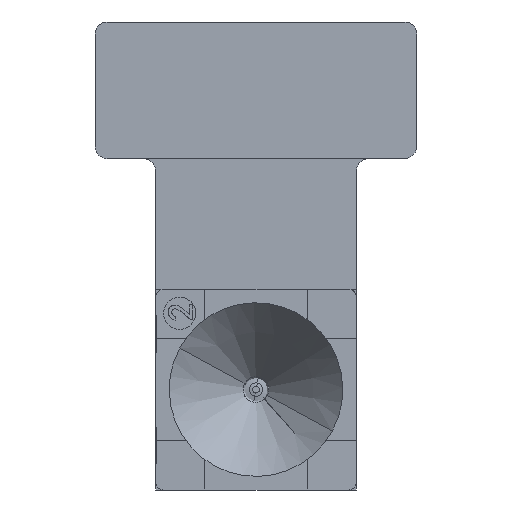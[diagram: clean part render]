
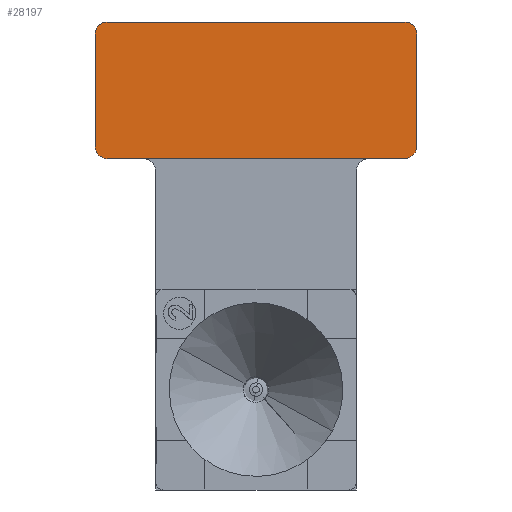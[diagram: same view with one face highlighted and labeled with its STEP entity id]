
A CAD part, front view. The second image highlights one B-rep face of the part: STEP entity #28197.
In plain terms, the highlighted planar face has unit normal (0, -1, 0) as drawn and (0, 0, 1) by its records, which use the part's own axes.
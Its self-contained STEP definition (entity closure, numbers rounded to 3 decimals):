
#27962=AXIS2_PLACEMENT_3D('Circle Axis2P3D',#27960,#27961,$) ;
#28118=AXIS2_PLACEMENT_3D('Plane Axis2P3D',#28115,#28116,#28117) ;
#27957=CARTESIAN_POINT('Vertex',(-3.209,-9.94,0.35)) ;
#27960=CARTESIAN_POINT('Axis2P3D Location',(-2.909,-9.94,0.35)) ;
#27964=CARTESIAN_POINT('Vertex',(-2.909,-9.64,0.35)) ;
#28093=CARTESIAN_POINT('Vertex',(-3.209,-12.74,0.35)) ;
#28096=CARTESIAN_POINT('Line Origine',(-3.209,-11.34,0.35)) ;
#28115=CARTESIAN_POINT('Axis2P3D Location',(-2.909,-9.94,0.35)) ;
#28121=CARTESIAN_POINT('Control Point',(-3.209,-12.74,0.35)) ;
#28122=CARTESIAN_POINT('Control Point',(-3.209,-12.777,0.35)) ;
#28123=CARTESIAN_POINT('Control Point',(-3.203,-12.815,0.35)) ;
#28124=CARTESIAN_POINT('Control Point',(-3.191,-12.852,0.35)) ;
#28125=CARTESIAN_POINT('Control Point',(-3.157,-12.92,0.35)) ;
#28126=CARTESIAN_POINT('Control Point',(-3.103,-12.973,0.35)) ;
#28127=CARTESIAN_POINT('Control Point',(-3.071,-12.997,0.35)) ;
#28128=CARTESIAN_POINT('Control Point',(-3.02,-13.022,0.35)) ;
#28129=CARTESIAN_POINT('Control Point',(-2.966,-13.035,0.35)) ;
#28130=CARTESIAN_POINT('Control Point',(-2.947,-13.038,0.35)) ;
#28131=CARTESIAN_POINT('Control Point',(-2.928,-13.04,0.35)) ;
#28132=CARTESIAN_POINT('Control Point',(-2.909,-13.04,0.35)) ;
#28133=CARTESIAN_POINT('Vertex',(-2.909,-13.04,0.35)) ;
#28136=CARTESIAN_POINT('Line Origine',(0.791,-13.04,0.35)) ;
#28140=CARTESIAN_POINT('Vertex',(4.491,-13.04,0.35)) ;
#28144=CARTESIAN_POINT('Control Point',(4.491,-13.04,0.35)) ;
#28145=CARTESIAN_POINT('Control Point',(4.528,-13.04,0.35)) ;
#28146=CARTESIAN_POINT('Control Point',(4.566,-13.034,0.35)) ;
#28147=CARTESIAN_POINT('Control Point',(4.603,-13.022,0.35)) ;
#28148=CARTESIAN_POINT('Control Point',(4.671,-12.987,0.35)) ;
#28149=CARTESIAN_POINT('Control Point',(4.724,-12.934,0.35)) ;
#28150=CARTESIAN_POINT('Control Point',(4.748,-12.902,0.35)) ;
#28151=CARTESIAN_POINT('Control Point',(4.773,-12.851,0.35)) ;
#28152=CARTESIAN_POINT('Control Point',(4.786,-12.796,0.35)) ;
#28153=CARTESIAN_POINT('Control Point',(4.789,-12.778,0.35)) ;
#28154=CARTESIAN_POINT('Control Point',(4.791,-12.759,0.35)) ;
#28155=CARTESIAN_POINT('Control Point',(4.791,-12.74,0.35)) ;
#28156=CARTESIAN_POINT('Vertex',(4.791,-12.74,0.35)) ;
#28159=CARTESIAN_POINT('Line Origine',(4.791,-11.34,0.35)) ;
#28163=CARTESIAN_POINT('Vertex',(4.791,-9.94,0.35)) ;
#28167=CARTESIAN_POINT('Control Point',(4.791,-9.94,0.35)) ;
#28168=CARTESIAN_POINT('Control Point',(4.791,-9.903,0.35)) ;
#28169=CARTESIAN_POINT('Control Point',(4.785,-9.865,0.35)) ;
#28170=CARTESIAN_POINT('Control Point',(4.773,-9.827,0.35)) ;
#28171=CARTESIAN_POINT('Control Point',(4.738,-9.76,0.35)) ;
#28172=CARTESIAN_POINT('Control Point',(4.685,-9.706,0.35)) ;
#28173=CARTESIAN_POINT('Control Point',(4.653,-9.683,0.35)) ;
#28174=CARTESIAN_POINT('Control Point',(4.602,-9.658,0.35)) ;
#28175=CARTESIAN_POINT('Control Point',(4.547,-9.644,0.35)) ;
#28176=CARTESIAN_POINT('Control Point',(4.529,-9.641,0.35)) ;
#28177=CARTESIAN_POINT('Control Point',(4.51,-9.64,0.35)) ;
#28178=CARTESIAN_POINT('Control Point',(4.491,-9.64,0.35)) ;
#28179=CARTESIAN_POINT('Vertex',(4.491,-9.64,0.35)) ;
#28182=CARTESIAN_POINT('Line Origine',(0.791,-9.64,0.35)) ;
#27961=DIRECTION('Axis2P3D Direction',(-0.,0.,-1.)) ;
#28097=DIRECTION('Vector Direction',(0.,-1.,0.)) ;
#28116=DIRECTION('Axis2P3D Direction',(0.,0.,-1.)) ;
#28117=DIRECTION('Axis2P3D XDirection',(-1.,0.,0.)) ;
#28137=DIRECTION('Vector Direction',(1.,0.,0.)) ;
#28160=DIRECTION('Vector Direction',(0.,1.,0.)) ;
#28183=DIRECTION('Vector Direction',(-1.,0.,0.)) ;
#28098=VECTOR('Line Direction',#28097,1.) ;
#28138=VECTOR('Line Direction',#28137,1.) ;
#28161=VECTOR('Line Direction',#28160,1.) ;
#28184=VECTOR('Line Direction',#28183,1.) ;
#28188=ORIENTED_EDGE('',*,*,#27966,.T.) ;
#28189=ORIENTED_EDGE('',*,*,#28100,.T.) ;
#28190=ORIENTED_EDGE('',*,*,#28135,.T.) ;
#28191=ORIENTED_EDGE('',*,*,#28142,.T.) ;
#28192=ORIENTED_EDGE('',*,*,#28158,.T.) ;
#28193=ORIENTED_EDGE('',*,*,#28165,.T.) ;
#28194=ORIENTED_EDGE('',*,*,#28181,.T.) ;
#28195=ORIENTED_EDGE('',*,*,#28186,.T.) ;
#28197=ADVANCED_FACE('\X2\51F853F0\X0\-\X2\62C94F38\X0\1',(#28196),#28119,.F.) ;
#28120=B_SPLINE_CURVE_WITH_KNOTS('',5,(#28121,#28122,#28123,#28124,#28125,#28126,#28127,#28128,#28129,#28130,#28131,#28132),.UNSPECIFIED.,.F.,.U.,(6,3,3,6),(0.,0.264,0.529,0.662),.UNSPECIFIED.) ;
#28143=B_SPLINE_CURVE_WITH_KNOTS('',5,(#28144,#28145,#28146,#28147,#28148,#28149,#28150,#28151,#28152,#28153,#28154,#28155),.UNSPECIFIED.,.F.,.U.,(6,3,3,6),(0.,0.264,0.529,0.662),.UNSPECIFIED.) ;
#28166=B_SPLINE_CURVE_WITH_KNOTS('',5,(#28167,#28168,#28169,#28170,#28171,#28172,#28173,#28174,#28175,#28176,#28177,#28178),.UNSPECIFIED.,.F.,.U.,(6,3,3,6),(0.,0.264,0.529,0.662),.UNSPECIFIED.) ;
#27963=CIRCLE('generated circle',#27962,0.3) ;
#27966=EDGE_CURVE('',#27965,#27958,#27963,.F.) ;
#28100=EDGE_CURVE('',#27958,#28094,#28099,.T.) ;
#28135=EDGE_CURVE('',#28094,#28134,#28120,.T.) ;
#28142=EDGE_CURVE('',#28134,#28141,#28139,.T.) ;
#28158=EDGE_CURVE('',#28141,#28157,#28143,.T.) ;
#28165=EDGE_CURVE('',#28157,#28164,#28162,.T.) ;
#28181=EDGE_CURVE('',#28164,#28180,#28166,.T.) ;
#28186=EDGE_CURVE('',#28180,#27965,#28185,.T.) ;
#28187=EDGE_LOOP('',(#28188,#28189,#28190,#28191,#28192,#28193,#28194,#28195)) ;
#28196=FACE_OUTER_BOUND('',#28187,.T.) ;
#28099=LINE('Line',#28096,#28098) ;
#28139=LINE('Line',#28136,#28138) ;
#28162=LINE('Line',#28159,#28161) ;
#28185=LINE('Line',#28182,#28184) ;
#28119=PLANE('',#28118) ;
#27958=VERTEX_POINT('',#27957) ;
#27965=VERTEX_POINT('',#27964) ;
#28094=VERTEX_POINT('',#28093) ;
#28134=VERTEX_POINT('',#28133) ;
#28141=VERTEX_POINT('',#28140) ;
#28157=VERTEX_POINT('',#28156) ;
#28164=VERTEX_POINT('',#28163) ;
#28180=VERTEX_POINT('',#28179) ;
